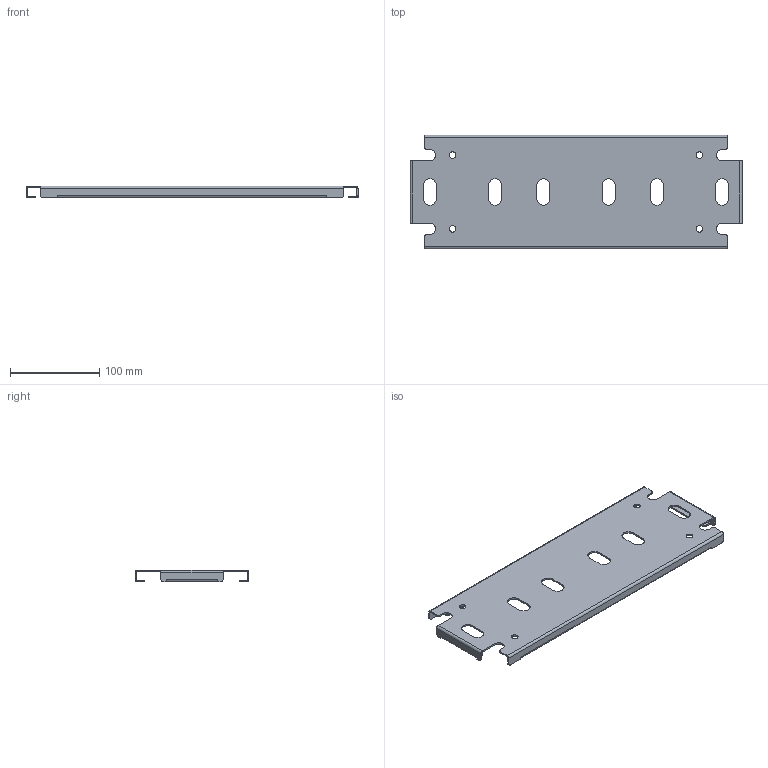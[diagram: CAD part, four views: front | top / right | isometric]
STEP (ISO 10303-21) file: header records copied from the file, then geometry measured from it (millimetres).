
FILE_DESCRIPTION(/* description */ ('1412BTCU 14.625" x 56" Inner Panel'),/* implementation_level */ '2;1');
FILE_NAME(/* name */ 'C:\Vault_Workspace\Inventor_Dwg\BoxCad\Result\1412BTCU07203\e-mail\3D\1412BTCU07203IP1.stp',/* time_stamp */ '2022-09-06T12:07:38-04:00',/* author */ ('BoxCad'),/* organization */ (''),/* preprocessor_version */ 'ST-DEVELOPER v18.1',/* originating_system */ 'Autodesk Inventor 2020',/* authorisation */ '');
FILE_SCHEMA (('AUTOMOTIVE_DESIGN { 1 0 10303 214 3 1 1 }'));
Length unit declared in the file: inch
Products named in the file (2): 1412BTCU07203IP1; 1412BTCU07203IP1-P
Assembly tree (1 placements, depth 2):
  1412BTCU07203IP1
    1412BTCU07203IP1-P
Bounding box: 371.48 x 127 x 13 mm (x, y, z)
Volume: 98056.2 mm3; surface area: 116630.8 mm2
Topology: 1 solids, 1 shells, 134 faces, 396 edges, 264 vertices
Faces by surface type: plane 78, cylinder 56
Full cylindrical faces by diameter (mm): 7.366 x4
Entity records: 4601 total; most frequent: CARTESIAN_POINT 797, ORIENTED_EDGE 792, DIRECTION 782, EDGE_CURVE 396, LINE 284, VECTOR 284, VERTEX_POINT 264, AXIS2_PLACEMENT_3D 249
